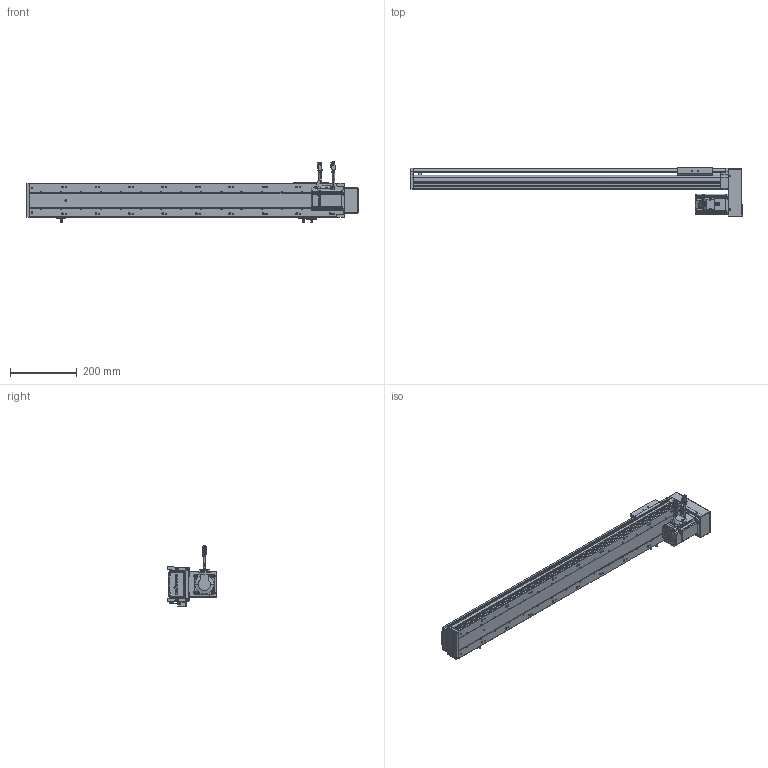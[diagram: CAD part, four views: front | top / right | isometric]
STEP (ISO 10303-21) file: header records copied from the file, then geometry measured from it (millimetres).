
FILE_DESCRIPTION (( 'STEP AP203' ), '1' );
FILE_NAME ('RY100S-L1620-300-BK(15双轨).SLDASM_750.step', '2021-02-20T08:23:37', ( '盈信电脑' ), ( '东莞市道滘镇水果街19号' ), 'SwSTEP 2.0', 'SolidWorks 2012', '' );
FILE_SCHEMA (( 'CONFIG_CONTROL_DESIGN' ));
Products named in the file (26): RY100S-L1620-300-BK(15邧寢).SLDASM_750; 肮祭湍5M遵15笚酗260; RY100S下折电机安装板（15双轨）; RY100S-狟殏萇儂郪; 侂狟200W萇儂; 7; 6; 5; 3; 1; 2; 4; 3M30喘15遵; RY80肮祭湍覃踡啣; RY100S狟殏萇儂欶(15邧寢); RY80肮祭湍芢雄輸; RY100綴裔啣; 滅袉蝶18-24; RY100S-絳寢EGH15-350-LK(腴郪15邧寢)_750; RY100S转折电机端支撑座(15双轨); RY100俋离覜茼え; 滅袉蝶18-10; 覜茼ん672; RY100S-300-LK转折型材上盖(15双轨)_750; RY100S铝滑块（15双轨单滑块）底组装导轨; RY100S-350-LK型材底座(低组15双轨)_750
Assembly tree (28 placements, depth 4):
  RY100S-L1620-300-BK(15邧寢).SLDASM_750
    RY100S-350-LK型材底座(低组15双轨)_750
    RY100S-300-LK转折型材上盖(15双轨)_750
    RY100S铝滑块（15双轨单滑块）底组装导轨
    覜茼ん672  x3
    滅袉蝶18-10
    RY100俋离覜茼え
    RY100S转折电机端支撑座(15双轨)
    滅袉蝶18-24
    RY100綴裔啣
    RY100S-絳寢EGH15-350-LK(腴郪15邧寢)_750
    RY100S-狟殏萇儂郪
      RY80肮祭湍芢雄輸  x2
      RY100S狟殏萇儂欶(15邧寢)
      3M30喘15遵
      RY80肮祭湍覃踡啣
      侂狟200W萇儂
        1
        2
        3
        4
        5
        6
        7
      肮祭湍5M遵15笚酗260
      RY100S下折电机安装板（15双轨）
Bounding box: 992 x 147 x 179.5 mm (x, y, z)
Volume: 2453180.2 mm3; surface area: 965959.7 mm2
Topology: 26 solids, 26 shells, 3393 faces, 9141 edges, 5900 vertices
Faces by surface type: plane 1753, cylinder 1357, cone 169, bspline 114
Entity records: 110741 total; most frequent: CARTESIAN_POINT 27507, ORIENTED_EDGE 16986, DIRECTION 16484, EDGE_CURVE 8493, AXIS2_PLACEMENT_3D 5673, VERTEX_POINT 5536, VECTOR 5138, LINE 5138
